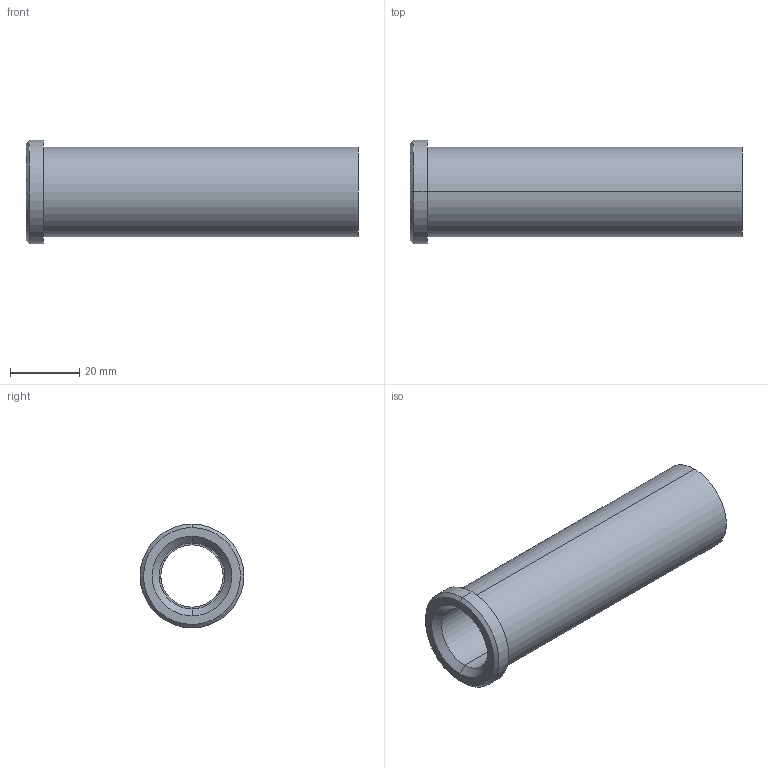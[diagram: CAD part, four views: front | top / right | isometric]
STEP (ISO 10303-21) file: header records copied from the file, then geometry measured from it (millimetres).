
FILE_DESCRIPTION(('CATIA V5 STEP Exchange'),'2;1');
FILE_NAME('C:\Users\Utente\Desktop\IO LAVORO\3D X SITO CF\X SITO\PLASTICA\353\353-18X96.stp','2021-05-08T08:46:04+00:00',('none'),('none'),'CATIA Version 5 Release 20 GA (IN-10)','CATIA V5 STEP AP203','none');
FILE_SCHEMA(('CONFIG_CONTROL_DESIGN'));
Length unit declared in the file: millimetre
Products named in the file (1): 353-18X96
Bounding box: 96 x 30 x 30 mm (x, y, z)
Volume: 25474.1 mm3; surface area: 14269.6 mm2
Topology: 1 solids, 1 shells, 18 faces, 58 edges, 44 vertices
Faces by surface type: cylinder 8, plane 4, cone 4, torus 2
Entity records: 840 total; most frequent: CARTESIAN_POINT 289, ORIENTED_EDGE 116, DIRECTION 82, EDGE_CURVE 58, AXIS2_PLACEMENT_3D 53, VERTEX_POINT 44, CIRCLE 34, EDGE_LOOP 22
